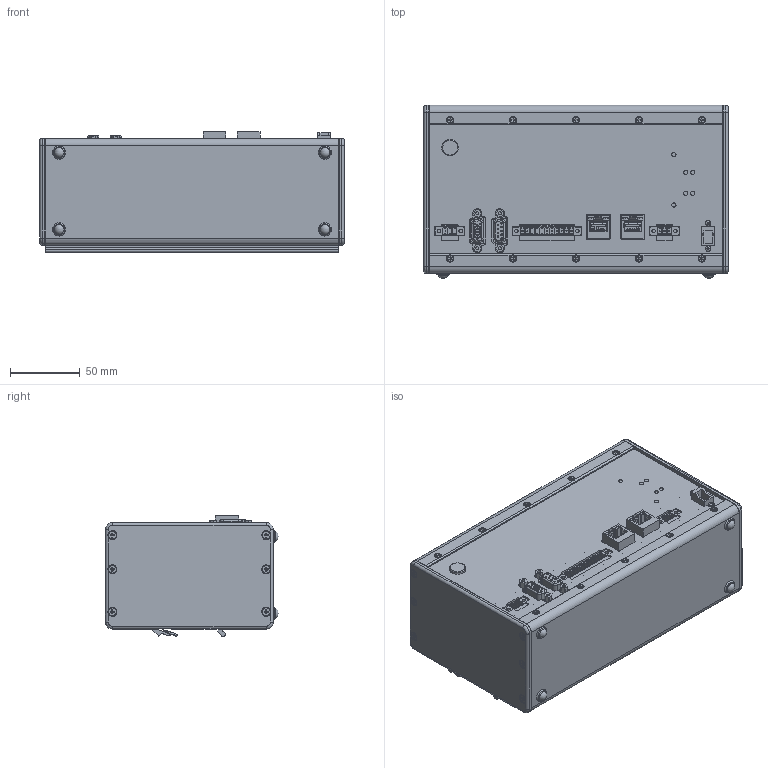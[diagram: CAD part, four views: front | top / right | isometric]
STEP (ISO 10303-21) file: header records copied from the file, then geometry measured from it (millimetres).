
FILE_DESCRIPTION (( 'STEP AP203' ), '1' );
FILE_NAME ('2418018.000-AA BG Controller_IMC5400_step.STEP', '2020-07-23T09:01:28', ( '' ), ( '' ), 'SwSTEP 2.0', 'SolidWorks 2018', '' );
FILE_SCHEMA (( 'CONFIG_CONTROL_DESIGN' ));
Length unit declared in the file: millimetre
Products named in the file (1): 2418018.000-AA  BG Controller_IMC5400_step
Bounding box: 218 x 123.77 x 86.01 mm (x, y, z)
Surface area: 161591.3 mm2 (no closed solid volume)
Topology: 0 solids, 96 shells, 1263 faces, 4605 edges, 3326 vertices
Faces by surface type: plane 790, cylinder 305, cone 115, torus 47, sphere 6
Full cylindrical faces by diameter (mm): 0.6 x18, 1.5 x12, 2 x1, 2.2 x4, 3 x6, 4 x4, 4.5 x10, 5.2 x10, 5.5 x12, 11.6 x1, 11.8 x1
Entity records: 47628 total; most frequent: CARTESIAN_POINT 9919, DIRECTION 7710, ORIENTED_EDGE 6679, EDGE_CURVE 4412, VERTEX_POINT 3291, VECTOR 3162, LINE 3162, AXIS2_PLACEMENT_3D 2274
